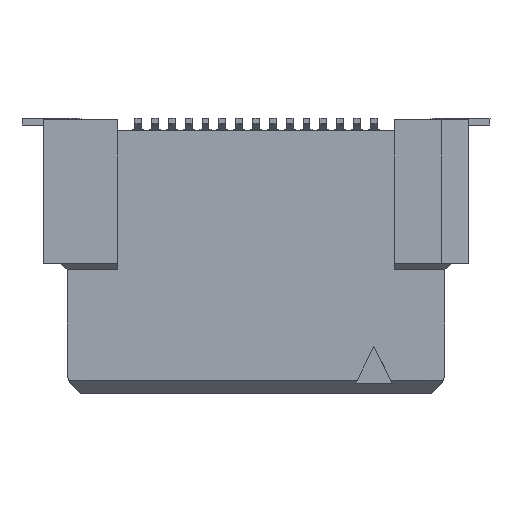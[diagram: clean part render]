
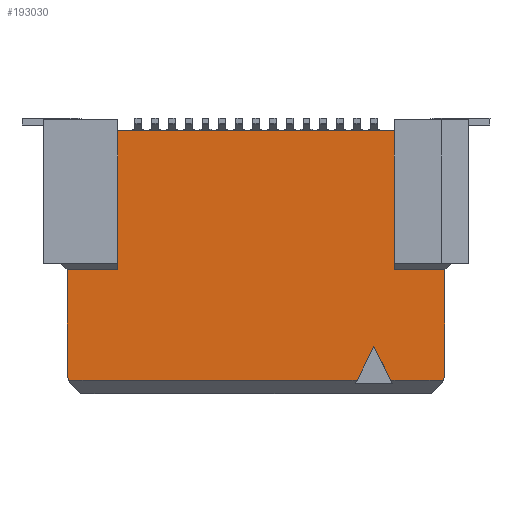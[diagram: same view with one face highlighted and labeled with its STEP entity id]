
A CAD part, front view. The second image highlights one B-rep face of the part: STEP entity #193030.
In plain terms, the highlighted planar face has unit normal (0, -1, 0).
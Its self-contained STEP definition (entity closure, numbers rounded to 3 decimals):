
#4080=CARTESIAN_POINT('',(23.522,1.44,
10.32));
#4090=VERTEX_POINT('',#4080);
#4880=CARTESIAN_POINT('',(23.522,1.44,
6.19));
#4890=VERTEX_POINT('',#4880);
#4920=CARTESIAN_POINT('',(23.522,1.44,
8.755));
#4930=DIRECTION('',(0.,0.,
1.));
#4940=VECTOR('',#4930,1.);
#4950=LINE('',#4920,#4940);
#4960=EDGE_CURVE('',#4890,#4090,#4950,.T.);
#8360=CARTESIAN_POINT('',(25.022,1.44,
6.19));
#8370=VERTEX_POINT('',#8360);
#8400=CARTESIAN_POINT('',(24.372,1.44,
6.19));
#8410=DIRECTION('',(-1.,0.,0.));
#8420=VECTOR('',#8410,1.);
#8430=LINE('',#8400,#8420);
#8440=EDGE_CURVE('',#8370,#4890,#8430,.T.);
#16790=CARTESIAN_POINT('',(25.022,1.44,
3.06));
#16800=VERTEX_POINT('',#16790);
#16830=CARTESIAN_POINT('',(25.022,1.44,
10.39));
#16840=DIRECTION('',(0.,0.,
1.));
#16850=VECTOR('',#16840,1.);
#16860=LINE('',#16830,#16850);
#16870=EDGE_CURVE('',#16800,#8370,#16860,.T.);
#23660=CARTESIAN_POINT('',(24.974,1.44,
2.91));
#23670=VERTEX_POINT('',#23660);
#23700=CARTESIAN_POINT('',(27.371,1.44,
10.39));
#23710=DIRECTION('',(-0.305,0.,
-0.952));
#23720=VECTOR('',#23710,1.);
#23730=LINE('',#23700,#23720);
#23740=EDGE_CURVE('',#16800,#23670,#23730,.T.);
#25960=CARTESIAN_POINT('',(22.912,1.44,
3.91));
#25970=VERTEX_POINT('',#25960);
#26000=CARTESIAN_POINT('',(20.49,1.44,
8.755));
#26010=DIRECTION('',(-0.447,0.,
0.894));
#26020=VECTOR('',#26010,1.);
#26030=LINE('',#26000,#26020);
#26040=CARTESIAN_POINT('',(23.412,1.44,
2.91));
#26050=VERTEX_POINT('',#26040);
#26060=EDGE_CURVE('',#26050,#25970,#26030,.T.);
#46430=CARTESIAN_POINT('',(22.412,1.44,
2.91));
#46440=VERTEX_POINT('',#46430);
#46470=CARTESIAN_POINT('',(25.335,1.44,
8.755));
#46480=DIRECTION('',(-0.447,0.,
-0.894));
#46490=VECTOR('',#46480,1.);
#46500=LINE('',#46470,#46490);
#46510=EDGE_CURVE('',#25970,#46440,#46500,.T.);
#191900=CARTESIAN_POINT('',(2.172,1.44,
2.91));
#191910=DIRECTION('',(0.,1.,
0.));
#191920=DIRECTION('',(0.,0.,
1.));
#191930=AXIS2_PLACEMENT_3D('',#191900,#191910,#191920);
#191940=PLANE('',#191930);
#191950=CARTESIAN_POINT('',(21.958,1.44,
2.91));
#191960=DIRECTION('',(1.,0.,0.));
#191970=VECTOR('',#191960,1.);
#191980=LINE('',#191950,#191970);
#191990=CARTESIAN_POINT('',(13.851,1.44,
2.91));
#192000=VERTEX_POINT('',#191990);
#192010=CARTESIAN_POINT('',(15.152,1.44,
2.91));
#192020=VERTEX_POINT('',#192010);
#192030=EDGE_CURVE('',#192000,#192020,#191980,.T.);
#192040=ORIENTED_EDGE('',*,*,#192030,.T.);
#192050=CARTESIAN_POINT('',(11.454,1.44,
10.39));
#192060=DIRECTION('',(0.305,0.,
-0.952));
#192070=VECTOR('',#192060,1.);
#192080=LINE('',#192050,#192070);
#192090=CARTESIAN_POINT('',(13.802,1.44,
3.06));
#192100=VERTEX_POINT('',#192090);
#192110=EDGE_CURVE('',#192100,#192000,#192080,.T.);
#192120=ORIENTED_EDGE('',*,*,#192110,.T.);
#192130=CARTESIAN_POINT('',(13.802,1.44,
10.39));
#192140=DIRECTION('',(0.,0.,
1.));
#192150=VECTOR('',#192140,1.);
#192160=LINE('',#192130,#192150);
#192170=CARTESIAN_POINT('',(13.802,1.44,
6.19));
#192180=VERTEX_POINT('',#192170);
#192190=EDGE_CURVE('',#192100,#192180,#192160,.T.);
#192200=ORIENTED_EDGE('',*,*,#192190,.F.);
#192210=CARTESIAN_POINT('',(14.452,1.44,
6.19));
#192220=DIRECTION('',(1.,0.,0.));
#192230=VECTOR('',#192220,1.);
#192240=LINE('',#192210,#192230);
#192250=CARTESIAN_POINT('',(15.302,1.44,
6.19));
#192260=VERTEX_POINT('',#192250);
#192270=EDGE_CURVE('',#192180,#192260,#192240,.T.);
#192280=ORIENTED_EDGE('',*,*,#192270,.F.);
#192290=CARTESIAN_POINT('',(15.302,1.44,
8.755));
#192300=DIRECTION('',(0.,0.,
1.));
#192310=VECTOR('',#192300,1.);
#192320=LINE('',#192290,#192310);
#192330=CARTESIAN_POINT('',(15.302,1.44,
10.32));
#192340=VERTEX_POINT('',#192330);
#192350=EDGE_CURVE('',#192260,#192340,#192320,.T.);
#192360=ORIENTED_EDGE('',*,*,#192350,.F.);
#192370=CARTESIAN_POINT('',(15.152,1.44,
10.32));
#192380=DIRECTION('',(1.,0.,0.));
#192390=VECTOR('',#192380,1.);
#192400=LINE('',#192370,#192390);
#192410=CARTESIAN_POINT('',(15.662,1.44,
10.32));
#192420=VERTEX_POINT('',#192410);
#192430=EDGE_CURVE('',#192340,#192420,#192400,.T.);
#192440=ORIENTED_EDGE('',*,*,#192430,.F.);
#192450=CARTESIAN_POINT('',(-31.5,1.44,
10.32));
#192460=DIRECTION('',(1.,0.,0.));
#192470=VECTOR('',#192460,1.);
#192480=LINE('',#192450,#192470);
#192490=CARTESIAN_POINT('',(17.662,1.44,
10.32));
#192500=VERTEX_POINT('',#192490);
#192510=EDGE_CURVE('',#192420,#192500,#192480,.T.);
#192520=ORIENTED_EDGE('',*,*,#192510,.F.);
#192530=CARTESIAN_POINT('',(-9.,1.44,
10.32));
#192540=DIRECTION('',(1.,0.,0.));
#192550=VECTOR('',#192540,1.);
#192560=LINE('',#192530,#192550);
#192570=CARTESIAN_POINT('',(19.162,1.44,
10.32));
#192580=VERTEX_POINT('',#192570);
#192590=EDGE_CURVE('',#192500,#192580,#192560,.T.);
#192600=ORIENTED_EDGE('',*,*,#192590,.F.);
#192610=CARTESIAN_POINT('',(-2.588,1.44,
10.32));
#192620=DIRECTION('',(1.,0.,0.));
#192630=VECTOR('',#192620,1.);
#192640=LINE('',#192610,#192630);
#192650=CARTESIAN_POINT('',(23.162,1.44,
10.32));
#192660=VERTEX_POINT('',#192650);
#192670=EDGE_CURVE('',#192580,#192660,#192640,.T.);
#192680=ORIENTED_EDGE('',*,*,#192670,.F.);
#192690=CARTESIAN_POINT('',(23.672,1.44,
10.32));
#192700=DIRECTION('',(-1.,0.,0.));
#192710=VECTOR('',#192700,1.);
#192720=LINE('',#192690,#192710);
#192730=EDGE_CURVE('',#4090,#192660,#192720,.T.);
#192740=ORIENTED_EDGE('',*,*,#192730,.T.);
#192750=ORIENTED_EDGE('',*,*,#4960,.T.);
#192760=ORIENTED_EDGE('',*,*,#8440,.T.);
#192770=ORIENTED_EDGE('',*,*,#16870,.T.);
#192780=ORIENTED_EDGE('',*,*,#23740,.F.);
#192790=CARTESIAN_POINT('',(16.867,1.44,
2.91));
#192800=DIRECTION('',(-1.,0.,0.));
#192810=VECTOR('',#192800,1.);
#192820=LINE('',#192790,#192810);
#192830=CARTESIAN_POINT('',(23.672,1.44,
2.91));
#192840=VERTEX_POINT('',#192830);
#192850=EDGE_CURVE('',#23670,#192840,#192820,.T.);
#192860=ORIENTED_EDGE('',*,*,#192850,.F.);
#192870=CARTESIAN_POINT('',(-2.348,1.44,
2.91));
#192880=DIRECTION('',(1.,0.,0.));
#192890=VECTOR('',#192880,1.);
#192900=LINE('',#192870,#192890);
#192910=EDGE_CURVE('',#26050,#192840,#192900,.T.);
#192920=ORIENTED_EDGE('',*,*,#192910,.T.);
#192930=ORIENTED_EDGE('',*,*,#26060,.F.);
#192940=ORIENTED_EDGE('',*,*,#46510,.F.);
#192950=CARTESIAN_POINT('',(6.152,1.44,
2.91));
#192960=DIRECTION('',(1.,0.,0.));
#192970=VECTOR('',#192960,1.);
#192980=LINE('',#192950,#192970);
#192990=EDGE_CURVE('',#192020,#46440,#192980,.T.);
#193000=ORIENTED_EDGE('',*,*,#192990,.T.);
#193010=EDGE_LOOP('',(#193000,#192940,#192930,#192920,#192860,#192780,
#192770,#192760,#192750,#192740,#192680,#192600,#192520,#192440,#192360,
#192280,#192200,#192120,#192040));
#193020=FACE_OUTER_BOUND('',#193010,.T.);
#193030=ADVANCED_FACE('',(#193020),#191940,.F.);
